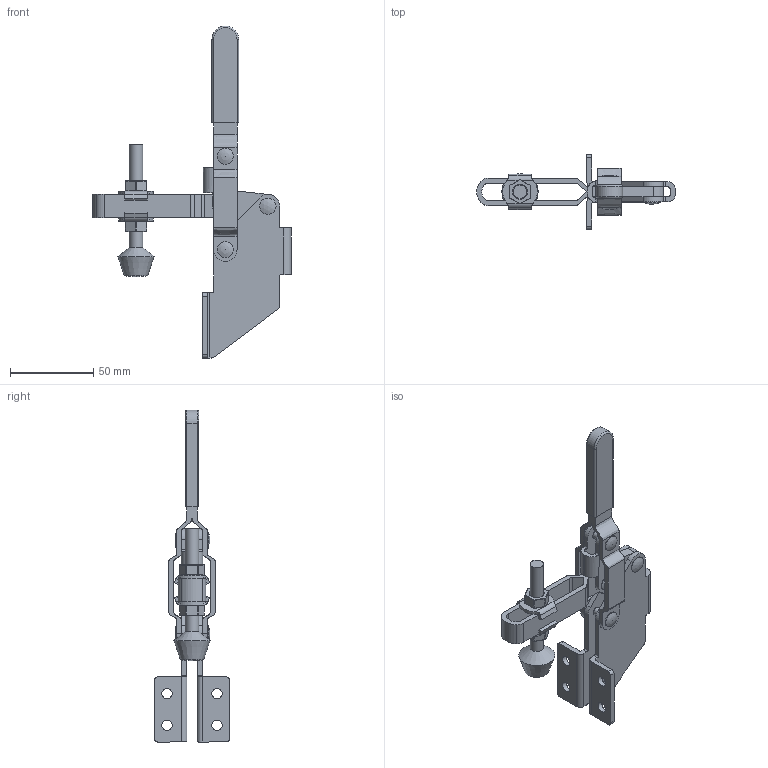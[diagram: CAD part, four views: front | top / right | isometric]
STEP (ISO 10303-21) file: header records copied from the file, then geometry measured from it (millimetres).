
FILE_DESCRIPTION(/* description */ (''),/* implementation_level */ '2;1');
FILE_NAME(/* name */ '\\NAS\db20\018-11A\DR_018-11A.stp',/* time_stamp */ '2018-03-02T13:34:59+09:00',/* author */ ('user'),/* organization */ (''),/* preprocessor_version */ 'ST-DEVELOPER v15.6',/* originating_system */ 'Autodesk Inventor 2015',/* authorisation */ '');
FILE_SCHEMA (('AUTOMOTIVE_DESIGN { 1 0 10303 214 3 1 1 }'));
Length unit declared in the file: millimetre
Products named in the file (9): DR_018-11A-B; DR_018-11A-BR; DR_018-11A-C; DR_018-11A-H; DR_TCB8-W; DR_NUT-M8; DR_TCB-M8; DR_018-11A
Bounding box: 118.97 x 45 x 199 mm (x, y, z)
Volume: 61450.2 mm3; surface area: 42609.7 mm2
Topology: 9 solids, 9 shells, 331 faces, 838 edges, 529 vertices
Faces by surface type: cylinder 134, plane 131, torus 32, bspline 21, cone 9, sphere 4
Full cylindrical faces by diameter (mm): 5 x13, 6.2 x4, 8 x3, 8.5 x2, 9.6 x2, 9.8 x2
Entity records: 8951 total; most frequent: CARTESIAN_POINT 2364, DIRECTION 1362, ORIENTED_EDGE 1260, EDGE_CURVE 630, AXIS2_PLACEMENT_3D 504, VERTEX_POINT 426, LINE 354, VECTOR 354
